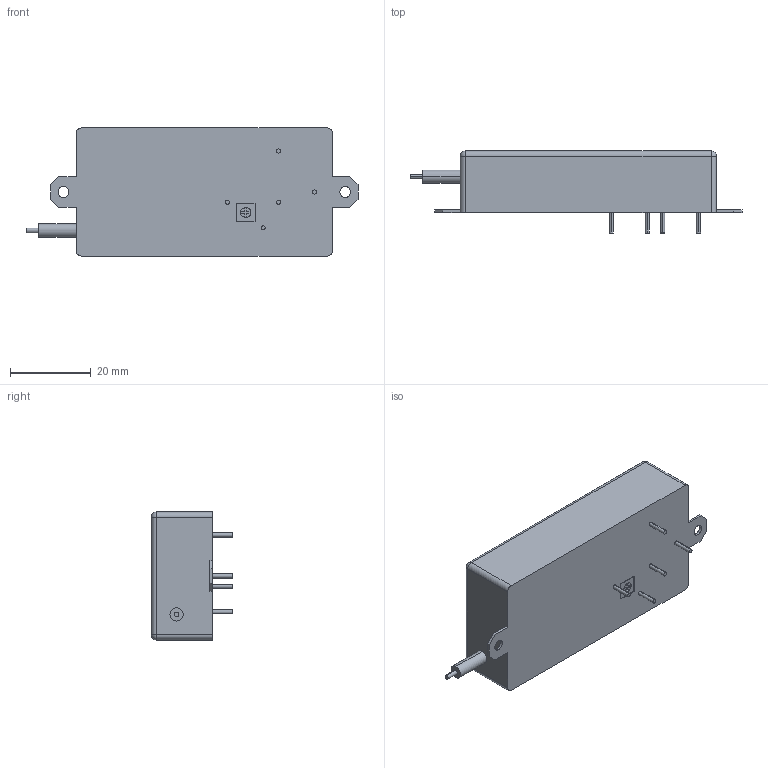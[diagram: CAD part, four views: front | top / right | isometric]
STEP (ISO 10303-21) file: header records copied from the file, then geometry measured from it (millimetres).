
FILE_DESCRIPTION (( 'STEP AP203' ), '1' );
FILE_NAME ('XP EMCO C80 - 4711CR.STEP', '2016-10-03T18:59:48', ( '' ), ( '' ), 'SwSTEP 2.0', 'SolidWorks 2014', '' );
FILE_SCHEMA (( 'CONFIG_CONTROL_DESIGN' ));
Length unit declared in the file: inch
Products named in the file (1): XP EMCO C80 - 4711CR
Bounding box: 82.3 x 20.32 x 31.75 mm (x, y, z)
Volume: 30791.6 mm3; surface area: 7166 mm2
Topology: 1 solids, 1 shells, 76 faces, 184 edges, 116 vertices
Faces by surface type: plane 44, cylinder 28, sphere 4
Entity records: 2271 total; most frequent: DIRECTION 390, CARTESIAN_POINT 373, ORIENTED_EDGE 360, EDGE_CURVE 180, AXIS2_PLACEMENT_3D 133, VECTOR 124, LINE 124, VERTEX_POINT 116
